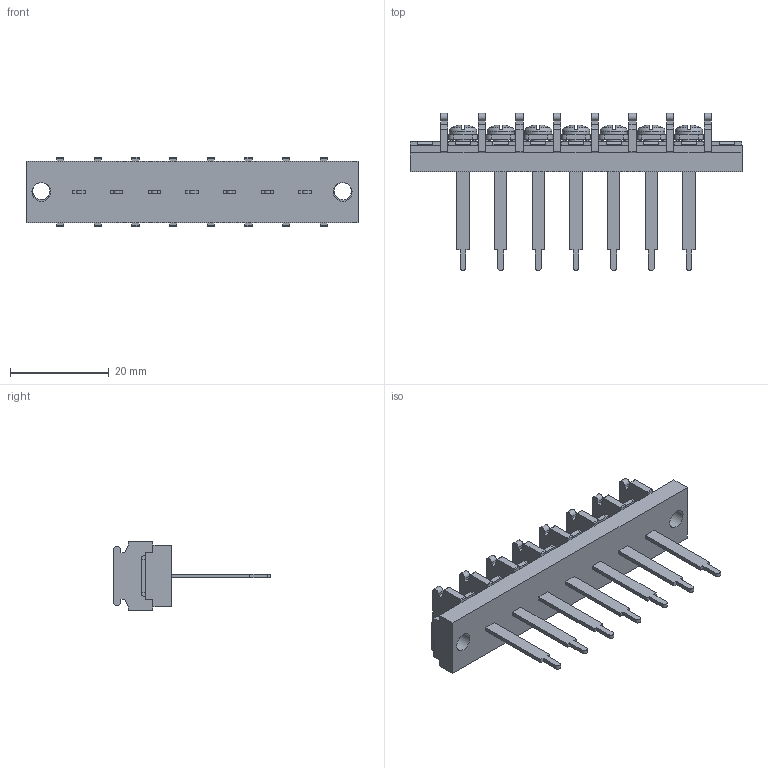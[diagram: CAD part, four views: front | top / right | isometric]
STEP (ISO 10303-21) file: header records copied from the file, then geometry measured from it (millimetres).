
FILE_DESCRIPTION(/* description */ ('Alibre Inc.'),/* implementation_level */ '2;1');
FILE_NAME(/* name */ 'export0',/* time_stamp */ '2015-10-26T16:30:48+09:00',/* author */ (''),/* organization */ (''),/* preprocessor_version */ 'ST-DEVELOPER v14',/* originating_system */ 'Alibre',/* authorisation */ '');
FILE_SCHEMA (('CONFIG_CONTROL_DESIGN'));
Length unit declared in the file: centimetre
Products named in the file (1): ID_1
Bounding box: 67.16 x 31.8 x 14 mm (x, y, z)
Volume: 6152.6 mm3; surface area: 6379.6 mm2
Topology: 1 solids, 17 shells, 1264 faces, 3434 edges, 2254 vertices
Faces by surface type: plane 985, cylinder 119, bspline 104, cone 28, torus 14, sphere 14
Full cylindrical faces by diameter (mm): 3 x7, 3.5 x2, 3.8 x2, 5.5 x7
Entity records: 37669 total; most frequent: CARTESIAN_POINT 8056, ORIENTED_EDGE 6768, DIRECTION 4673, EDGE_CURVE 3384, VECTOR 2500, LINE 2500, VERTEX_POINT 2236, AXIS2_PLACEMENT_3D 1540
